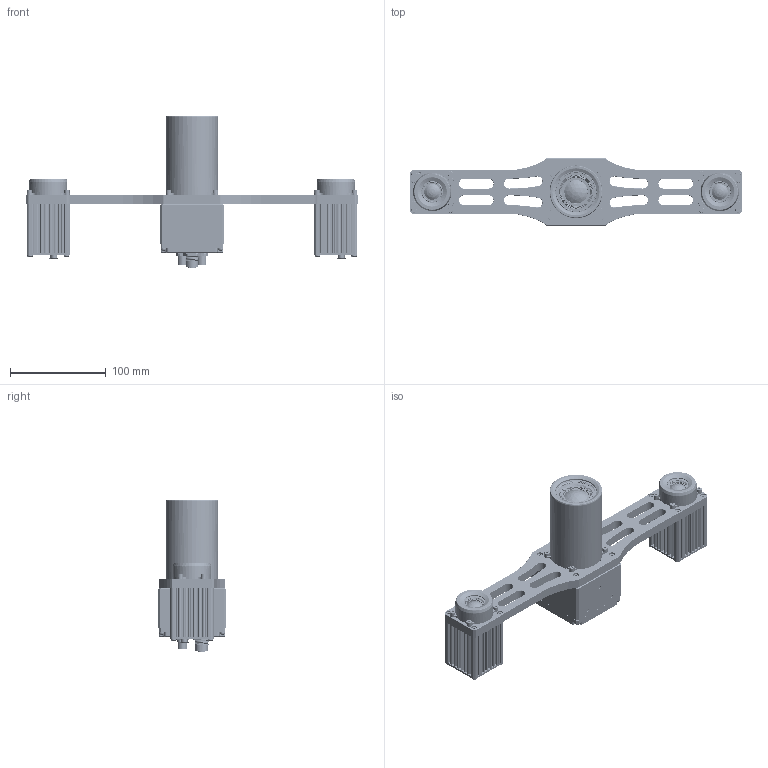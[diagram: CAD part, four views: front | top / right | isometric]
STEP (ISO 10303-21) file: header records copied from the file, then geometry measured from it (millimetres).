
FILE_DESCRIPTION(/* description */ (''),/* implementation_level */ '2;1');
FILE_NAME(/* name */ '115545.stp',/* time_stamp */ '2025-06-23T09:24:03+02:00',/* author */ (''),/* organization */ (''),/* preprocessor_version */ 'ST-DEVELOPER v20',/* originating_system */ 'Autodesk Inventor 2024',/* authorisation */ '');
FILE_SCHEMA (('CONFIG_CONTROL_DESIGN'));
Products named in the file (1): 115545
Bounding box: 346.3 x 70 x 159.5 mm (x, y, z)
Volume: 781060.8 mm3; surface area: 146372.8 mm2
Topology: 1 solids, 1 shells, 6032 faces, 16703 edges, 10831 vertices
Faces by surface type: cylinder 2801, plane 2387, cone 403, bspline 286, torus 136, sphere 19
Full cylindrical faces by diameter (mm): 0.7 x12, 0.95 x12, 1 x8, 1.2 x4, 1.3 x2, 1.4 x12, 1.567 x4, 2.5 x5, 2.7 x2, 3 x18, 3.3 x16, 3.4 x4, 4.2 x6, 5.105 x1, 5.5 x30, 5.6 x14, 5.8 x2, 6.3 x12, 6.917 x2, 7 x2, 7.6 x2, 8 x2, 10 x2, 10.857 x11, 11.94 x11, 13.256 x5, 13.44 x1, 14 x1, 16.5 x2, 16.9 x2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
Entity records: 224670 total; most frequent: CARTESIAN_POINT 61757, ORIENTED_EDGE 33314, DIRECTION 33262, EDGE_CURVE 16657, AXIS2_PLACEMENT_3D 12101, VERTEX_POINT 10831, LINE 9060, VECTOR 9060
